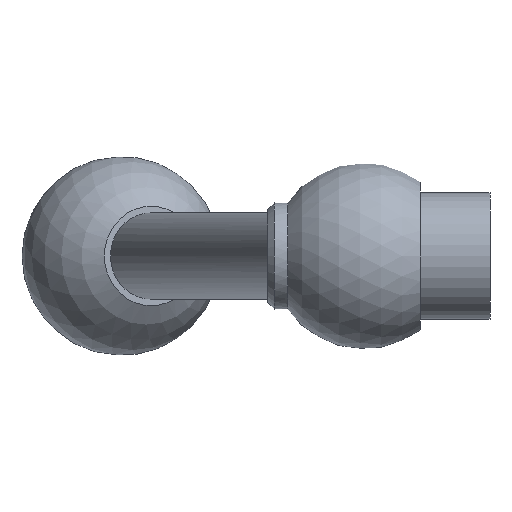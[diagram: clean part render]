
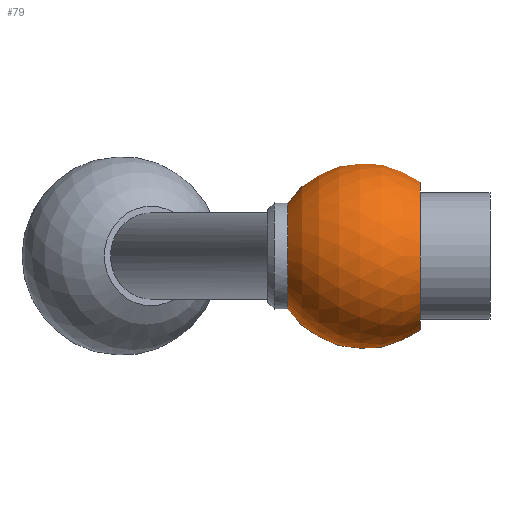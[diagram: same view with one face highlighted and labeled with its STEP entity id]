
A CAD part, left-side view. The second image highlights one B-rep face of the part: STEP entity #79.
In plain terms, the highlighted spherical face has radius 14 mm.
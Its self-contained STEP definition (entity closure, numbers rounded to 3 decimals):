
#79 = ADVANCED_FACE( '', ( #103, #104 ), #105, .T. );
#103 = FACE_OUTER_BOUND( '', #147, .T. );
#104 = FACE_OUTER_BOUND( '', #148, .T. );
#105 = SPHERICAL_SURFACE( '', #149, 14. );
#147 = EDGE_LOOP( '', ( #201, #202 ) );
#148 = EDGE_LOOP( '', ( #203 ) );
#149 = AXIS2_PLACEMENT_3D( '', #204, #205, #206 );
#201 = ORIENTED_EDGE( '', *, *, #262, .T. );
#202 = ORIENTED_EDGE( '', *, *, #259, .T. );
#203 = ORIENTED_EDGE( '', *, *, #264, .F. );
#204 = CARTESIAN_POINT( '', ( 0., 19., 0. ) );
#205 = DIRECTION( '', ( 0., -1., 0. ) );
#206 = DIRECTION( '', ( 1., 0., 0. ) );
#259 = EDGE_CURVE( '', #279, #280, #281, .T. );
#262 = EDGE_CURVE( '', #280, #279, #283, .T. );
#264 = EDGE_CURVE( '', #286, #286, #287, .T. );
#279 = VERTEX_POINT( '', #308 );
#280 = VERTEX_POINT( '', #309 );
#281 = B_SPLINE_CURVE_WITH_KNOTS( '', 3, ( #310, #311, #312, #313, #314, #315, #316, #317, #318, #319, #320, #321, #322, #323, #324, #325, #326, #327, #328, #329, #330, #331, #332, #333, #334, #335, #336, #337, #338, #339, #340, #341, #342, #343, #344, #345, #346, #347, #348, #349, #350, #351, #352, #353, #354, #355, #356, #357, #358, #359, #360, #361, #362, #363, #364, #365, #366, #367, #368, #369, #370, #371, #372, #373, #374, #375, #376, #377, #378, #379, #380, #381 ), .UNSPECIFIED., .F., .F., ( 4, 2, 2, 2, 2, 2, 2, 2, 2, 2, 2, 2, 2, 2, 2, 2, 2, 2, 2, 2, 2, 2, 2, 2, 2, 2, 2, 2, 2, 2, 2, 2, 2, 2, 2, 4 ), ( 0., 0.001, 0.002, 0.003, 0.005, 0.006, 0.007, 0.008, 0.009, 0.01, 0.011, 0.012, 0.013, 0.014, 0.015, 0.015, 0.016, 0.017, 0.017, 0.018, 0.019, 0.02, 0.021, 0.023, 0.024, 0.025, 0.026, 0.027, 0.028, 0.029, 0.03, 0.032, 0.033, 0.034, 0.035, 0.036 ), .UNSPECIFIED. );
#283 = CIRCLE( '', #396, 7.984 );
#286 = VERTEX_POINT( '', #399 );
#287 = CIRCLE( '', #400, 11.124 );
#308 = CARTESIAN_POINT( '', ( 7.623, 30.5, -2.375 ) );
#309 = CARTESIAN_POINT( '', ( 7.623, 30.5, 2.375 ) );
#310 = CARTESIAN_POINT( '', ( 7.623, 30.5, -2.375 ) );
#311 = CARTESIAN_POINT( '', ( 7.696, 30.378, -2.73 ) );
#312 = CARTESIAN_POINT( '', ( 7.784, 30.232, -3.066 ) );
#313 = CARTESIAN_POINT( '', ( 7.987, 29.891, -3.705 ) );
#314 = CARTESIAN_POINT( '', ( 8.104, 29.696, -4.009 ) );
#315 = CARTESIAN_POINT( '', ( 8.363, 29.259, -4.576 ) );
#316 = CARTESIAN_POINT( '', ( 8.504, 29.023, -4.834 ) );
#317 = CARTESIAN_POINT( '', ( 8.805, 28.514, -5.301 ) );
#318 = CARTESIAN_POINT( '', ( 8.966, 28.241, -5.51 ) );
#319 = CARTESIAN_POINT( '', ( 9.305, 27.665, -5.873 ) );
#320 = CARTESIAN_POINT( '', ( 9.479, 27.367, -6.023 ) );
#321 = CARTESIAN_POINT( '', ( 9.839, 26.751, -6.265 ) );
#322 = CARTESIAN_POINT( '', ( 10.025, 26.431, -6.357 ) );
#323 = CARTESIAN_POINT( '', ( 10.402, 25.782, -6.477 ) );
#324 = CARTESIAN_POINT( '', ( 10.59, 25.457, -6.504 ) );
#325 = CARTESIAN_POINT( '', ( 10.966, 24.805, -6.495 ) );
#326 = CARTESIAN_POINT( '', ( 11.155, 24.476, -6.459 ) );
#327 = CARTESIAN_POINT( '', ( 11.527, 23.828, -6.323 ) );
#328 = CARTESIAN_POINT( '', ( 11.707, 23.513, -6.223 ) );
#329 = CARTESIAN_POINT( '', ( 12.057, 22.899, -5.965 ) );
#330 = CARTESIAN_POINT( '', ( 12.228, 22.598, -5.804 ) );
#331 = CARTESIAN_POINT( '', ( 12.552, 22.025, -5.426 ) );
#332 = CARTESIAN_POINT( '', ( 12.704, 21.756, -5.21 ) );
#333 = CARTESIAN_POINT( '', ( 12.917, 21.378, -4.85 ) );
#334 = CARTESIAN_POINT( '', ( 12.986, 21.257, -4.723 ) );
#335 = CARTESIAN_POINT( '', ( 13.118, 21.022, -4.457 ) );
#336 = CARTESIAN_POINT( '', ( 13.182, 20.909, -4.316 ) );
#337 = CARTESIAN_POINT( '', ( 13.362, 20.588, -3.882 ) );
#338 = CARTESIAN_POINT( '', ( 13.469, 20.398, -3.575 ) );
#339 = CARTESIAN_POINT( '', ( 13.608, 20.149, -3.087 ) );
#340 = CARTESIAN_POINT( '', ( 13.651, 20.073, -2.92 ) );
#341 = CARTESIAN_POINT( '', ( 13.73, 19.931, -2.578 ) );
#342 = CARTESIAN_POINT( '', ( 13.767, 19.866, -2.401 ) );
#343 = CARTESIAN_POINT( '', ( 13.863, 19.695, -1.867 ) );
#344 = CARTESIAN_POINT( '', ( 13.911, 19.609, -1.504 ) );
#345 = CARTESIAN_POINT( '', ( 13.959, 19.522, -0.948 ) );
#346 = CARTESIAN_POINT( '', ( 13.972, 19.5, -0.761 ) );
#347 = CARTESIAN_POINT( '', ( 13.988, 19.47, -0.383 ) );
#348 = CARTESIAN_POINT( '', ( 13.992, 19.463, -0.192 ) );
#349 = CARTESIAN_POINT( '', ( 13.992, 19.462, 0.376 ) );
#350 = CARTESIAN_POINT( '', ( 13.976, 19.491, 0.751 ) );
#351 = CARTESIAN_POINT( '', ( 13.912, 19.606, 1.494 ) );
#352 = CARTESIAN_POINT( '', ( 13.863, 19.694, 1.865 ) );
#353 = CARTESIAN_POINT( '', ( 13.736, 19.922, 2.574 ) );
#354 = CARTESIAN_POINT( '', ( 13.657, 20.062, 2.915 ) );
#355 = CARTESIAN_POINT( '', ( 13.471, 20.393, 3.567 ) );
#356 = CARTESIAN_POINT( '', ( 13.363, 20.587, 3.881 ) );
#357 = CARTESIAN_POINT( '', ( 13.124, 21.012, 4.457 ) );
#358 = CARTESIAN_POINT( '', ( 12.993, 21.245, 4.722 ) );
#359 = CARTESIAN_POINT( '', ( 12.707, 21.751, 5.206 ) );
#360 = CARTESIAN_POINT( '', ( 12.552, 22.025, 5.425 ) );
#361 = CARTESIAN_POINT( '', ( 12.23, 22.594, 5.802 ) );
#362 = CARTESIAN_POINT( '', ( 12.061, 22.89, 5.961 ) );
#363 = CARTESIAN_POINT( '', ( 11.71, 23.507, 6.222 ) );
#364 = CARTESIAN_POINT( '', ( 11.526, 23.829, 6.323 ) );
#365 = CARTESIAN_POINT( '', ( 11.157, 24.472, 6.458 ) );
#366 = CARTESIAN_POINT( '', ( 10.971, 24.797, 6.495 ) );
#367 = CARTESIAN_POINT( '', ( 10.593, 25.453, 6.504 ) );
#368 = CARTESIAN_POINT( '', ( 10.401, 25.784, 6.476 ) );
#369 = CARTESIAN_POINT( '', ( 10.028, 26.427, 6.358 ) );
#370 = CARTESIAN_POINT( '', ( 9.844, 26.743, 6.268 ) );
#371 = CARTESIAN_POINT( '', ( 9.482, 27.362, 6.026 ) );
#372 = CARTESIAN_POINT( '', ( 9.304, 27.665, 5.872 ) );
#373 = CARTESIAN_POINT( '', ( 8.969, 28.236, 5.513 ) );
#374 = CARTESIAN_POINT( '', ( 8.809, 28.507, 5.307 ) );
#375 = CARTESIAN_POINT( '', ( 8.506, 29.019, 4.838 ) );
#376 = CARTESIAN_POINT( '', ( 8.363, 29.259, 4.576 ) );
#377 = CARTESIAN_POINT( '', ( 8.106, 29.691, 4.015 ) );
#378 = CARTESIAN_POINT( '', ( 7.991, 29.886, 3.715 ) );
#379 = CARTESIAN_POINT( '', ( 7.785, 30.229, 3.072 ) );
#380 = CARTESIAN_POINT( '', ( 7.696, 30.378, 2.73 ) );
#381 = CARTESIAN_POINT( '', ( 7.623, 30.5, 2.375 ) );
#396 = AXIS2_PLACEMENT_3D( '', #424, #425, #426 );
#399 = CARTESIAN_POINT( '', ( 11.124, 10.5, 0. ) );
#400 = AXIS2_PLACEMENT_3D( '', #430, #431, #432 );
#424 = CARTESIAN_POINT( '', ( 0., 30.5, 0. ) );
#425 = DIRECTION( '', ( 0., -1., 0. ) );
#426 = DIRECTION( '', ( 1., 0., 0. ) );
#430 = CARTESIAN_POINT( '', ( 0., 10.5, 0. ) );
#431 = DIRECTION( '', ( 0., -1., 0. ) );
#432 = DIRECTION( '', ( 1., 0., 0. ) );
